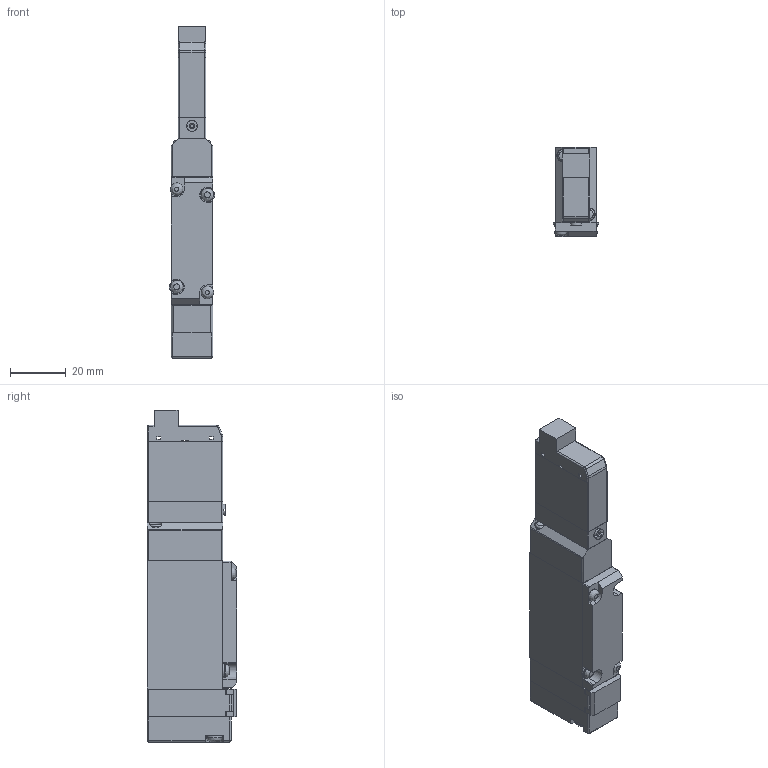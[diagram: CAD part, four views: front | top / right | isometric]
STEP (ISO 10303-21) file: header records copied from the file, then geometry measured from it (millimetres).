
FILE_DESCRIPTION( (''), '2;1');
FILE_NAME ('CVICAD02.3360.F15T1-A1-PN_21498.stp','2021-07-12T19:12:49',(''),(''),'spGate 12.6.6','','');
FILE_SCHEMA (('AUTOMOTIVE_DESIGN'));
Length unit declared in the file: millimetre
Bounding box: 16.2 x 32 x 119 mm (x, y, z)
Volume: 44727.1 mm3; surface area: 17527 mm2
Topology: 7 solids, 9 shells, 321 faces, 866 edges, 574 vertices
Faces by surface type: plane 199, cylinder 101, bspline 16, sphere 5
Full cylindrical faces by diameter (mm): 2.1 x2, 2.8 x2, 3.3 x1, 3.4 x1, 3.9 x2, 4 x1, 4.5 x6, 4.7 x2, 5.2 x2, 5.6 x2, 9.6 x2
Entity records: 17456 total; most frequent: CARTESIAN_POINT 2554, ORIENTED_EDGE 1718, DIRECTION 1621, COLOUR_RGB 1187, PRESENTATION_STYLE_ASSIGNMENT 1187, STYLED_ITEM 1187, EDGE_CURVE 859, DRAUGHTING_PRE_DEFINED_CURVE_FONT 859
